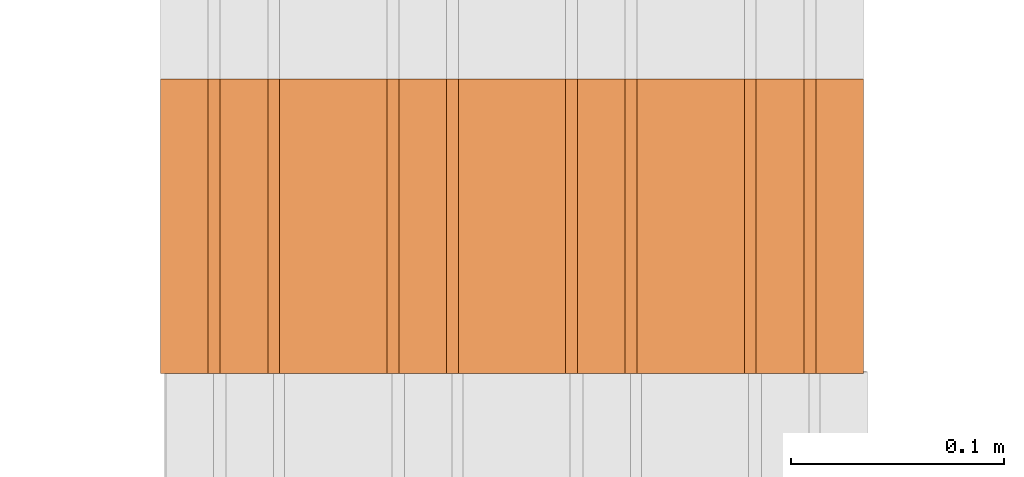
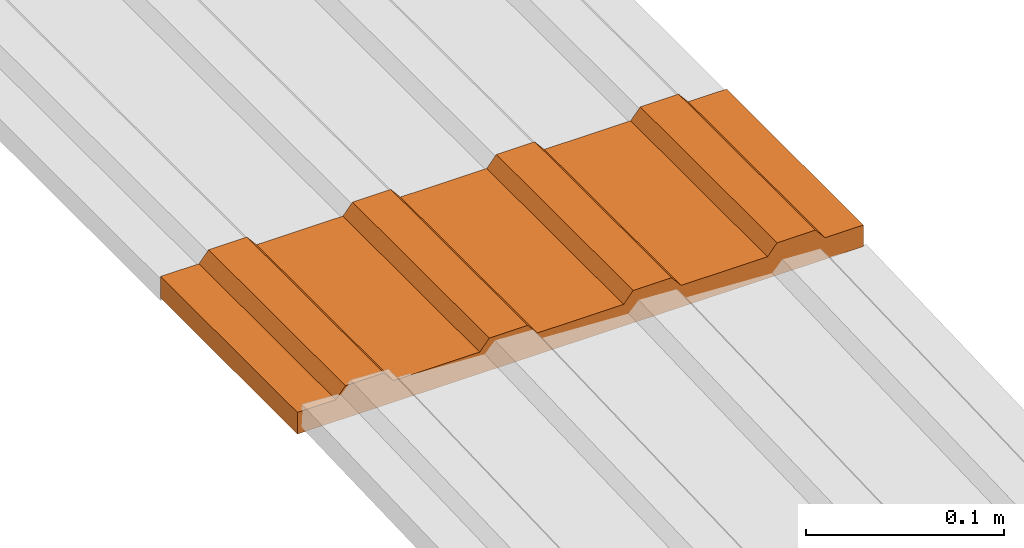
# One storey, part 230 of 237: 1 proxy.
"""IFC2X3 building model written with IfcOpenShell, lengths in millimetres."""

from ifc_helpers import new_model, entity, si_unit, converted_unit, derived_unit, money_unit, direction, frame, origin_with_axes, place, context, subcontext, project, spatial, open_shell, surface_model, type_object, element, save


model = new_model("IFC2X3")

# Units and contexts
model_context = context("Model", 3, precision=0.01, world=origin_with_axes(), true_north=direction((0.0, 1.0)))
body_context = subcontext(model_context, "Body", "Model", "MODEL_VIEW")
ifc_project = project(units=[si_unit("LENGTHUNIT", "METRE", prefix="MILLI"), si_unit("AREAUNIT", "SQUARE_METRE"), si_unit("VOLUMEUNIT", "CUBIC_METRE"), converted_unit("PLANEANGLEUNIT", "DEGREE", entity("IfcPlaneAngleMeasure", 0.0174532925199), si_unit("PLANEANGLEUNIT", "RADIAN"), dimensions=[0, 0, 0, 0, 0, 0, 0]), money_unit("USD"), converted_unit("TIMEUNIT", "Year", entity("IfcTimeMeasure", 31556926.0), si_unit("TIMEUNIT", "SECOND"), dimensions=[0, 0, 1, 0, 0, 0, 0]), si_unit("MASSUNIT", "GRAM", prefix="KILO"), si_unit("THERMODYNAMICTEMPERATUREUNIT", "DEGREE_CELSIUS"), si_unit("LUMINOUSINTENSITYUNIT", "LUMEN"), si_unit("ENERGYUNIT", "JOULE", prefix="MEGA"), derived_unit("THERMALCONDUCTANCEUNIT", [(si_unit("POWERUNIT", "WATT"), 1), (si_unit("LENGTHUNIT", "METRE"), -1), (si_unit("THERMODYNAMICTEMPERATUREUNIT", "KELVIN"), -1)]), derived_unit("SPECIFICHEATCAPACITYUNIT", [(si_unit("ENERGYUNIT", "JOULE"), 1), (si_unit("MASSUNIT", "GRAM", prefix="KILO"), -1), (si_unit("THERMODYNAMICTEMPERATUREUNIT", "KELVIN"), -1)]), derived_unit("MASSDENSITYUNIT", [(si_unit("MASSUNIT", "GRAM", prefix="KILO"), 1), (si_unit("VOLUMEUNIT", "CUBIC_METRE"), -1)])], contexts=[model_context])

# Site, building, storey
site_placement = place(None, origin_with_axes())
site = spatial("IfcSite", under=ifc_project, at=site_placement, Name="Local", CompositionType="ELEMENT")
building_placement = place(site_placement, origin_with_axes())
building = spatial("IfcBuilding", under=site, at=building_placement, Name="Construção", CompositionType="ELEMENT")
storey_placement = place(building_placement, origin_with_axes())
storey = spatial("IfcBuildingStorey", under=building, at=storey_placement, Name="Pavimento Térreo", CompositionType="ELEMENT", Elevation=0.0)

# Proxy
building_element_proxy_type = type_object("IfcBuildingElementProxyType", Name="Piso Direcional 27", PredefinedType="NOTDEFINED")
proxy_placement = place(storey_placement, frame((135346.086311, 14474.3176962, -7937.36060407), z_axis=(0.0, 0.0, 1.0), x_axis=(0.0, -1.0, 0.0)))
element("IfcBuildingElementProxy", 1, at=proxy_placement, inside=storey, type_object=building_element_proxy_type, Name="Objeto-0055", context=body_context, shape_type="SurfaceModel", body=[
    surface_model("IfcShellBasedSurfaceModel", [(0.0, -47.258225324, 4.02852049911), (138.277769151, -47.258225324, 4.02852049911), (138.277769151, -41.665004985, 10.6951871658), (0.0, -41.665004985, 10.6951871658)], [open_shell([[[0, 1, 2, 3]]])]),
    surface_model("IfcShellBasedSurfaceModel", [(138.277769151, -153.529411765, -9.30481283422), (138.277769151, 176.470588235, -9.30481283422), (138.277769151, 176.470588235, 4.02852049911), (138.277769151, 154.097706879, 4.02852049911), (138.277769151, 148.50448654, 10.6951871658), (138.277769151, 126.131605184, 10.6951871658), (138.277769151, 120.538384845, 4.02852049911), (138.277769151, 70.1994017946, 4.02852049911), (138.277769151, 64.6061814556, 10.6951871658), (138.277769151, 42.2333000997, 10.6951871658), (138.277769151, 36.6400797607, 4.02852049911), (138.277769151, -13.6989032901, 4.02852049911), (138.277769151, -19.2921236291, 10.6951871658), (138.277769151, -41.665004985, 10.6951871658), (138.277769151, -47.258225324, 4.02852049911), (138.277769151, -97.5972083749, 4.02852049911), (138.277769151, -103.190428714, 10.6951871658), (138.277769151, -125.56331007, 10.6951871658), (138.277769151, -131.156530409, 4.02852049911), (138.277769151, -153.529411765, 4.02852049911)], [open_shell([[[0, 1, 2, 3, 4, 5, 6, 7, 8, 9, 10, 11, 12, 13, 14, 15, 16, 17, 18, 19]]])]),
    surface_model("IfcShellBasedSurfaceModel", [(0.0, -19.2921236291, 10.6951871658), (138.277769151, -19.2921236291, 10.6951871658), (138.277769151, -13.6989032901, 4.02852049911), (0.0, -13.6989032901, 4.02852049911)], [open_shell([[[0, 1, 2, 3]]])]),
    surface_model("IfcShellBasedSurfaceModel", [(0.0, -103.190428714, 10.6951871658), (138.277769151, -103.190428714, 10.6951871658), (138.277769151, -97.5972083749, 4.02852049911), (0.0, -97.5972083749, 4.02852049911)], [open_shell([[[0, 1, 2, 3]]])]),
    surface_model("IfcShellBasedSurfaceModel", [(0.0, 64.6061814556, 10.6951871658), (138.277769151, 64.6061814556, 10.6951871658), (138.277769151, 70.1994017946, 4.02852049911), (0.0, 70.1994017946, 4.02852049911)], [open_shell([[[0, 1, 2, 3]]])]),
    surface_model("IfcShellBasedSurfaceModel", [(0.0, 36.6400797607, 4.02852049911), (138.277769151, 36.6400797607, 4.02852049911), (138.277769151, 42.2333000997, 10.6951871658), (0.0, 42.2333000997, 10.6951871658)], [open_shell([[[0, 1, 2, 3]]])]),
    surface_model("IfcShellBasedSurfaceModel", [(0.0, -131.156530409, 4.02852049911), (138.277769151, -131.156530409, 4.02852049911), (138.277769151, -125.56331007, 10.6951871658), (0.0, -125.56331007, 10.6951871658)], [open_shell([[[0, 1, 2, 3]]])]),
    surface_model("IfcShellBasedSurfaceModel", [(0.0, 176.470588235, 4.02852049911), (0.0, 154.097706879, 4.02852049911), (138.277769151, 154.097706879, 4.02852049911), (138.277769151, 176.470588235, 4.02852049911)], [open_shell([[[0, 1, 2, 3]]])]),
    surface_model("IfcShellBasedSurfaceModel", [(0.0, 120.538384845, 4.02852049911), (138.277769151, 120.538384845, 4.02852049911), (138.277769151, 126.131605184, 10.6951871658), (0.0, 126.131605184, 10.6951871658)], [open_shell([[[0, 1, 2, 3]]])]),
    surface_model("IfcShellBasedSurfaceModel", [(0.0, 148.50448654, 10.6951871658), (138.277769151, 148.50448654, 10.6951871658), (138.277769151, 154.097706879, 4.02852049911), (0.0, 154.097706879, 4.02852049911)], [open_shell([[[0, 1, 2, 3]]])]),
    surface_model("IfcShellBasedSurfaceModel", [(0.0, 36.6400797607, 4.02852049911), (0.0, -13.6989032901, 4.02852049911), (138.277769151, -13.6989032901, 4.02852049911), (138.277769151, 36.6400797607, 4.02852049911)], [open_shell([[[0, 1, 2, 3]]])]),
    surface_model("IfcShellBasedSurfaceModel", [(0.0, 120.538384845, 4.02852049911), (0.0, 70.1994017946, 4.02852049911), (138.277769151, 70.1994017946, 4.02852049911), (138.277769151, 120.538384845, 4.02852049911)], [open_shell([[[0, 1, 2, 3]]])]),
    surface_model("IfcShellBasedSurfaceModel", [(0.0, 148.50448654, 10.6951871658), (0.0, 126.131605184, 10.6951871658), (138.277769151, 126.131605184, 10.6951871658), (138.277769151, 148.50448654, 10.6951871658)], [open_shell([[[0, 1, 2, 3]]])]),
    surface_model("IfcShellBasedSurfaceModel", [(0.0, 120.538384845, 4.02852049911), (0.0, 126.131605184, 10.6951871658), (0.0, 148.50448654, 10.6951871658), (0.0, 154.097706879, 4.02852049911), (0.0, 176.470588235, 4.02852049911), (0.0, 176.470588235, -9.30481283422), (0.0, -153.529411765, -9.30481283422), (0.0, -153.529411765, 4.02852049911), (0.0, -131.156530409, 4.02852049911), (0.0, -125.56331007, 10.6951871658), (0.0, -103.190428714, 10.6951871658), (0.0, -97.5972083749, 4.02852049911), (0.0, -47.258225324, 4.02852049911), (0.0, -41.665004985, 10.6951871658), (0.0, -19.2921236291, 10.6951871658), (0.0, -13.6989032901, 4.02852049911), (0.0, 36.6400797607, 4.02852049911), (0.0, 42.2333000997, 10.6951871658), (0.0, 64.6061814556, 10.6951871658), (0.0, 70.1994017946, 4.02852049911)], [open_shell([[[0, 1, 2, 3, 4, 5, 6, 7, 8, 9, 10, 11, 12, 13, 14, 15, 16, 17, 18, 19]]])]),
    surface_model("IfcShellBasedSurfaceModel", [(138.277769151, -41.665004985, 10.6951871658), (138.277769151, -19.2921236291, 10.6951871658), (0.0, -19.2921236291, 10.6951871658), (0.0, -41.665004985, 10.6951871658)], [open_shell([[[0, 1, 2, 3]]])]),
    surface_model("IfcShellBasedSurfaceModel", [(0.0, -47.258225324, 4.02852049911), (0.0, -97.5972083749, 4.02852049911), (138.277769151, -97.5972083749, 4.02852049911), (138.277769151, -47.258225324, 4.02852049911)], [open_shell([[[0, 1, 2, 3]]])]),
    surface_model("IfcShellBasedSurfaceModel", [(138.277769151, 42.2333000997, 10.6951871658), (138.277769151, 64.6061814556, 10.6951871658), (0.0, 64.6061814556, 10.6951871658), (0.0, 42.2333000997, 10.6951871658)], [open_shell([[[0, 1, 2, 3]]])]),
    surface_model("IfcShellBasedSurfaceModel", [(138.277769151, -125.56331007, 10.6951871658), (138.277769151, -103.190428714, 10.6951871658), (0.0, -103.190428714, 10.6951871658), (0.0, -125.56331007, 10.6951871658)], [open_shell([[[0, 1, 2, 3]]])]),
    surface_model("IfcShellBasedSurfaceModel", [(138.277769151, 176.470588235, -9.30481283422), (0.0, 176.470588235, -9.30481283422), (0.0, 176.470588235, 4.02852049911), (138.277769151, 176.470588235, 4.02852049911)], [open_shell([[[0, 1, 2, 3]]])]),
    surface_model("IfcShellBasedSurfaceModel", [(138.277769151, -153.529411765, -9.30481283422), (0.0, -153.529411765, -9.30481283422), (0.0, 176.470588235, -9.30481283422), (138.277769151, 176.470588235, -9.30481283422)], [open_shell([[[0, 1, 2, 3]]])]),
    surface_model("IfcShellBasedSurfaceModel", [(138.277769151, -153.529411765, 4.02852049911), (138.277769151, -131.156530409, 4.02852049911), (0.0, -131.156530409, 4.02852049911), (0.0, -153.529411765, 4.02852049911)], [open_shell([[[0, 1, 2, 3]]])]),
    surface_model("IfcShellBasedSurfaceModel", [(0.0, -153.529411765, -9.30481283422), (138.277769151, -153.529411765, -9.30481283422), (138.277769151, -153.529411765, 4.02852049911), (0.0, -153.529411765, 4.02852049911)], [open_shell([[[0, 1, 2, 3]]])]),
])

save(model, "model.ifc")
